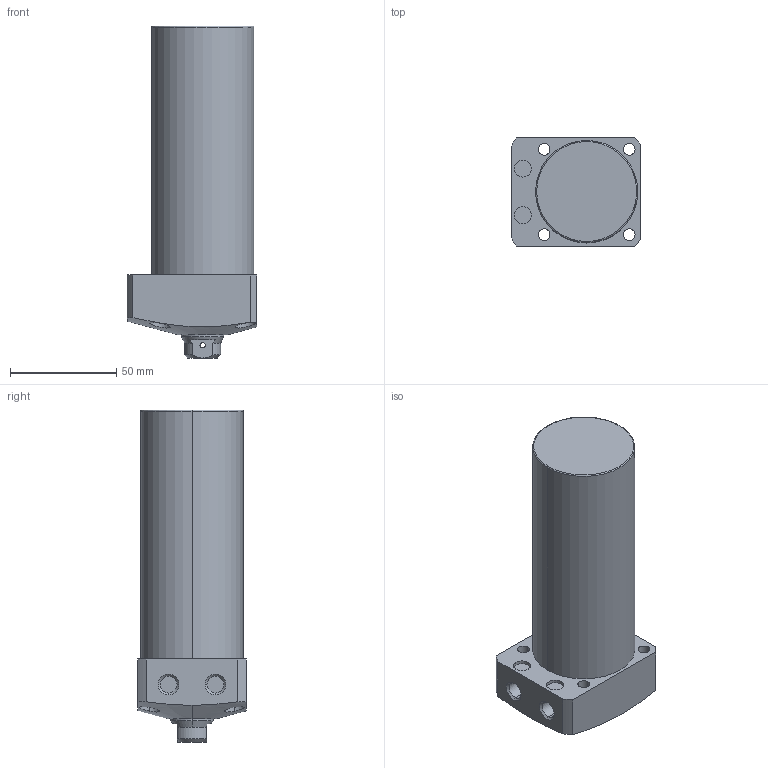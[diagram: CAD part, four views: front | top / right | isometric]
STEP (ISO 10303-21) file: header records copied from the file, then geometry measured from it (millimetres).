
FILE_DESCRIPTION (( 'STEP AP203' ), '1' );
FILE_NAME ('CLL048-CB-090.STEP', '2017-05-17T10:51:33', ( '' ), ( '' ), 'SwSTEP 2.0', 'SolidWorks 2015', '' );
FILE_SCHEMA (( 'CONFIG_CONTROL_DESIGN' ));
Length unit declared in the file: millimetre
Products named in the file (1): CLL048-CB-090
Bounding box: 61 x 51 x 156 mm (x, y, z)
Volume: 285882.6 mm3; surface area: 32458.2 mm2
Topology: 1 solids, 1 shells, 78 faces, 182 edges, 115 vertices
Faces by surface type: cylinder 39, plane 22, cone 15, torus 2
Entity records: 2751 total; most frequent: CARTESIAN_POINT 852, DIRECTION 394, ORIENTED_EDGE 360, EDGE_CURVE 180, AXIS2_PLACEMENT_3D 163, VERTEX_POINT 115, EDGE_LOOP 101, CIRCLE 84
